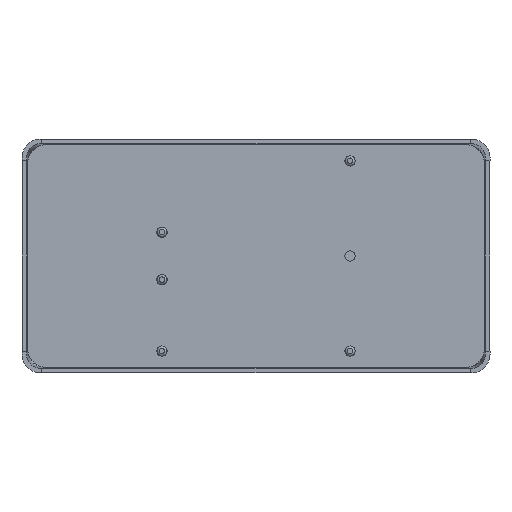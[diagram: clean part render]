
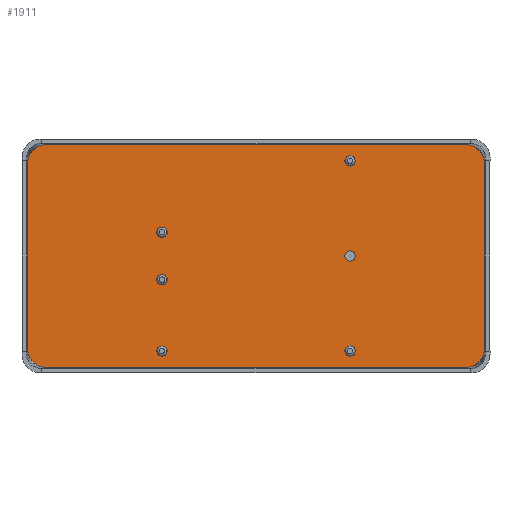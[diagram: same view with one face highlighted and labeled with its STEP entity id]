
A CAD part, top view. The second image highlights one B-rep face of the part: STEP entity #1911.
In plain terms, the highlighted planar face has unit normal (0, 0, 1).
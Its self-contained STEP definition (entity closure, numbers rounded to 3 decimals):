
#208=LINE($,#3537,#332);
#214=LINE($,#3569,#338);
#217=LINE($,#3577,#341);
#219=LINE($,#3601,#343);
#332=VECTOR($,#2607,44.8);
#338=VECTOR($,#2639,19.8);
#341=VECTOR($,#2648,44.8);
#343=VECTOR($,#2680,19.8);
#435=PLANE($,#2128);
#480=FACE_BOUND($,#754,.T.);
#481=FACE_BOUND($,#755,.T.);
#482=FACE_BOUND($,#756,.T.);
#483=FACE_BOUND($,#757,.T.);
#484=FACE_BOUND($,#758,.T.);
#485=FACE_BOUND($,#759,.T.);
#602=FACE_OUTER_BOUND($,#753,.T.);
#753=EDGE_LOOP($,(#1768,#1769,#1770,#1771,#1772,#1773,#1774,#1775));
#754=EDGE_LOOP($,(#1776));
#755=EDGE_LOOP($,(#1777));
#756=EDGE_LOOP($,(#1778));
#757=EDGE_LOOP($,(#1779));
#758=EDGE_LOOP($,(#1780));
#759=EDGE_LOOP($,(#1781));
#844=CIRCLE($,#2094,2.);
#855=CIRCLE($,#2108,2.);
#856=CIRCLE($,#2111,2.);
#857=CIRCLE($,#2114,2.);
#858=CIRCLE($,#2116,0.55);
#859=CIRCLE($,#2118,0.55);
#860=CIRCLE($,#2120,0.55);
#861=CIRCLE($,#2122,0.55);
#862=CIRCLE($,#2124,0.55);
#863=CIRCLE($,#2126,0.55);
#1014=VERTEX_POINT($,#3524);
#1015=VERTEX_POINT($,#3525);
#1019=VERTEX_POINT($,#3535);
#1031=VERTEX_POINT($,#3563);
#1032=VERTEX_POINT($,#3567);
#1033=VERTEX_POINT($,#3571);
#1034=VERTEX_POINT($,#3575);
#1035=VERTEX_POINT($,#3579);
#1036=VERTEX_POINT($,#3583);
#1037=VERTEX_POINT($,#3586);
#1038=VERTEX_POINT($,#3589);
#1039=VERTEX_POINT($,#3592);
#1040=VERTEX_POINT($,#3595);
#1041=VERTEX_POINT($,#3598);
#1256=EDGE_CURVE($,#1014,#1015,#844,.T.);
#1262=EDGE_CURVE($,#1019,#1014,#208,.T.);
#1275=EDGE_CURVE($,#1031,#1019,#855,.T.);
#1278=EDGE_CURVE($,#1032,#1031,#214,.T.);
#1279=EDGE_CURVE($,#1033,#1032,#856,.T.);
#1282=EDGE_CURVE($,#1034,#1033,#217,.T.);
#1283=EDGE_CURVE($,#1035,#1034,#857,.T.);
#1285=EDGE_CURVE($,#1036,#1036,#858,.T.);
#1286=EDGE_CURVE($,#1037,#1037,#859,.T.);
#1287=EDGE_CURVE($,#1038,#1038,#860,.T.);
#1288=EDGE_CURVE($,#1039,#1039,#861,.T.);
#1289=EDGE_CURVE($,#1040,#1040,#862,.T.);
#1290=EDGE_CURVE($,#1041,#1041,#863,.T.);
#1291=EDGE_CURVE($,#1015,#1035,#219,.T.);
#1768=ORIENTED_EDGE($,*,*,#1256,.F.);
#1769=ORIENTED_EDGE($,*,*,#1262,.F.);
#1770=ORIENTED_EDGE($,*,*,#1275,.F.);
#1771=ORIENTED_EDGE($,*,*,#1278,.F.);
#1772=ORIENTED_EDGE($,*,*,#1279,.F.);
#1773=ORIENTED_EDGE($,*,*,#1282,.F.);
#1774=ORIENTED_EDGE($,*,*,#1283,.F.);
#1775=ORIENTED_EDGE($,*,*,#1291,.F.);
#1776=ORIENTED_EDGE($,*,*,#1285,.T.);
#1777=ORIENTED_EDGE($,*,*,#1286,.T.);
#1778=ORIENTED_EDGE($,*,*,#1287,.T.);
#1779=ORIENTED_EDGE($,*,*,#1288,.T.);
#1780=ORIENTED_EDGE($,*,*,#1289,.T.);
#1781=ORIENTED_EDGE($,*,*,#1290,.T.);
#1911=ADVANCED_FACE($,(#602,#480,#481,#482,#483,#484,#485),#435,.T.);
#2094=AXIS2_PLACEMENT_3D($,#3526,#2597,#2598);
#2108=AXIS2_PLACEMENT_3D($,#3564,#2633,#2634);
#2111=AXIS2_PLACEMENT_3D($,#3572,#2642,#2643);
#2114=AXIS2_PLACEMENT_3D($,#3580,#2651,#2652);
#2116=AXIS2_PLACEMENT_3D($,#3584,#2656,#2657);
#2118=AXIS2_PLACEMENT_3D($,#3587,#2660,#2661);
#2120=AXIS2_PLACEMENT_3D($,#3590,#2664,#2665);
#2122=AXIS2_PLACEMENT_3D($,#3593,#2668,#2669);
#2124=AXIS2_PLACEMENT_3D($,#3596,#2672,#2673);
#2126=AXIS2_PLACEMENT_3D($,#3599,#2676,#2677);
#2128=AXIS2_PLACEMENT_3D($,#3602,#2681,#2682);
#2597=DIRECTION('center_axis',(0.,0.,-1.));
#2598=DIRECTION('ref_axis',(0.707,0.707,0.));
#2607=DIRECTION($,(1.,0.,0.));
#2633=DIRECTION('center_axis',(0.,0.,-1.));
#2634=DIRECTION('ref_axis',(-0.707,0.707,0.));
#2639=DIRECTION($,(0.,1.,0.));
#2642=DIRECTION('center_axis',(0.,0.,-1.));
#2643=DIRECTION('ref_axis',(-0.707,-0.707,0.));
#2648=DIRECTION($,(-1.,0.,0.));
#2651=DIRECTION('center_axis',(0.,0.,-1.));
#2652=DIRECTION('ref_axis',(0.707,-0.707,0.));
#2656=DIRECTION('center_axis',(0.,0.,-1.));
#2657=DIRECTION('ref_axis',(1.,0.,0.));
#2660=DIRECTION('center_axis',(0.,0.,-1.));
#2661=DIRECTION('ref_axis',(1.,0.,0.));
#2664=DIRECTION('center_axis',(0.,0.,-1.));
#2665=DIRECTION('ref_axis',(1.,0.,0.));
#2668=DIRECTION('center_axis',(0.,0.,-1.));
#2669=DIRECTION('ref_axis',(1.,0.,0.));
#2672=DIRECTION('center_axis',(0.,0.,-1.));
#2673=DIRECTION('ref_axis',(1.,0.,0.));
#2676=DIRECTION('center_axis',(0.,0.,-1.));
#2677=DIRECTION('ref_axis',(1.,0.,0.));
#2680=DIRECTION($,(0.,-1.,0.));
#2681=DIRECTION('center_axis',(0.,0.,1.));
#2682=DIRECTION('ref_axis',(1.,0.,0.));
#3524=CARTESIAN_POINT('',(46.8,23.8,0.6));
#3525=CARTESIAN_POINT('',(48.8,21.8,0.6));
#3526=CARTESIAN_POINT('Origin',(46.8,21.8,0.6));
#3535=CARTESIAN_POINT('',(2.,23.8,0.6));
#3537=CARTESIAN_POINT($,(48.8,23.8,0.6));
#3563=CARTESIAN_POINT('',(0.,21.8,0.6));
#3564=CARTESIAN_POINT('Origin',(2.,21.8,0.6));
#3567=CARTESIAN_POINT('',(0.,2.,0.6));
#3569=CARTESIAN_POINT($,(0.,23.8,0.6));
#3571=CARTESIAN_POINT('',(2.,0.,0.6));
#3572=CARTESIAN_POINT('Origin',(2.,2.,0.6));
#3575=CARTESIAN_POINT('',(46.8,0.,0.6));
#3577=CARTESIAN_POINT($,(0.,0.,0.6));
#3579=CARTESIAN_POINT('',(48.8,2.,0.6));
#3580=CARTESIAN_POINT('Origin',(46.8,2.,0.6));
#3583=CARTESIAN_POINT('',(35.,1.74,0.6));
#3584=CARTESIAN_POINT('Origin',(34.45,1.74,0.6));
#3586=CARTESIAN_POINT('',(35.,11.9,0.6));
#3587=CARTESIAN_POINT('Origin',(34.45,11.9,0.6));
#3589=CARTESIAN_POINT('',(35.,22.06,0.6));
#3590=CARTESIAN_POINT('Origin',(34.45,22.06,0.6));
#3592=CARTESIAN_POINT('',(14.9,1.74,0.6));
#3593=CARTESIAN_POINT('Origin',(14.35,1.74,0.6));
#3595=CARTESIAN_POINT('',(14.9,9.36,0.6));
#3596=CARTESIAN_POINT('Origin',(14.35,9.36,0.6));
#3598=CARTESIAN_POINT('',(14.9,14.44,0.6));
#3599=CARTESIAN_POINT('Origin',(14.35,14.44,0.6));
#3601=CARTESIAN_POINT($,(48.8,0.,0.6));
#3602=CARTESIAN_POINT('Origin',(24.4,11.9,0.6));
